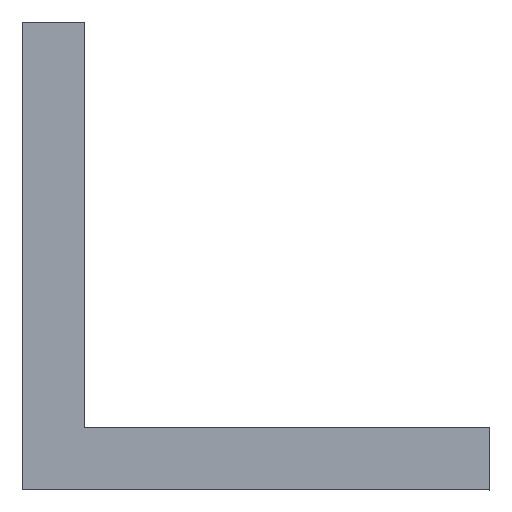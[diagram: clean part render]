
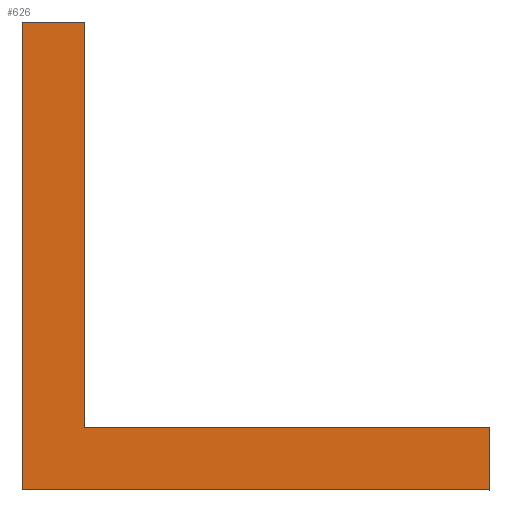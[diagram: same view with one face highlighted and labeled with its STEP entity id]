
A CAD part, top view. The second image highlights one B-rep face of the part: STEP entity #626.
In plain terms, the highlighted planar face has unit normal (0, 0, 1).
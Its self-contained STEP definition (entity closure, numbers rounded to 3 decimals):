
#322=ORIENTED_EDGE('',*,*,#416,.F.);
#323=ORIENTED_EDGE('',*,*,#421,.F.);
#324=ORIENTED_EDGE('',*,*,#410,.T.);
#325=ORIENTED_EDGE('',*,*,#422,.T.);
#326=ORIENTED_EDGE('',*,*,#405,.F.);
#327=ORIENTED_EDGE('',*,*,#423,.F.);
#349=VECTOR('',#481,1.);
#353=VECTOR('',#489,1.);
#357=VECTOR('',#501,1.);
#361=VECTOR('',#511,1.);
#362=VECTOR('',#514,1.);
#363=VECTOR('',#515,1.);
#367=LINE('',#542,#349);
#371=LINE('',#553,#353);
#375=LINE('',#567,#357);
#379=LINE('',#575,#361);
#380=LINE('',#577,#362);
#381=LINE('',#578,#363);
#383=VERTEX_POINT('',#536);
#385=VERTEX_POINT('',#540);
#388=VERTEX_POINT('',#547);
#390=VERTEX_POINT('',#551);
#394=VERTEX_POINT('',#561);
#396=VERTEX_POINT('',#565);
#405=EDGE_CURVE('',#385,#383,#367,.T.);
#410=EDGE_CURVE('',#388,#390,#371,.T.);
#416=EDGE_CURVE('',#396,#394,#375,.T.);
#421=EDGE_CURVE('',#388,#396,#379,.T.);
#422=EDGE_CURVE('',#390,#383,#380,.T.);
#423=EDGE_CURVE('',#394,#385,#381,.T.);
#439=EDGE_LOOP('',(#322,#323,#324,#325,#326,#327));
#463=FACE_BOUND('',#439,.T.);
#481=DIRECTION('',(8.,0.,0.));
#489=DIRECTION('',(-52.,0.,0.));
#501=DIRECTION('',(-60.,0.,0.));
#511=DIRECTION('',(0.,-8.,0.));
#512=DIRECTION('',(0.,0.,1.));
#513=DIRECTION('',(0.,-1.,0.));
#514=DIRECTION('',(0.,52.,0.));
#515=DIRECTION('',(0.,60.,0.));
#536=CARTESIAN_POINT('',(8.,60.,15.));
#540=CARTESIAN_POINT('',(0.,60.,15.));
#542=CARTESIAN_POINT('',(0.,60.,15.));
#547=CARTESIAN_POINT('',(60.,8.,15.));
#551=CARTESIAN_POINT('',(8.,8.,15.));
#553=CARTESIAN_POINT('',(60.,8.,15.));
#561=CARTESIAN_POINT('',(0.,0.,15.));
#565=CARTESIAN_POINT('',(60.,0.,15.));
#567=CARTESIAN_POINT('',(60.,0.,15.));
#575=CARTESIAN_POINT('',(60.,8.,15.));
#576=CARTESIAN_POINT('',(0.,0.,15.));
#577=CARTESIAN_POINT('',(8.,8.,15.));
#578=CARTESIAN_POINT('',(0.,0.,15.));
#602=AXIS2_PLACEMENT_3D('',#576,#512,#513);
#617=PLANE('',#602);
#626=ADVANCED_FACE('',(#463),#617,.T.);
